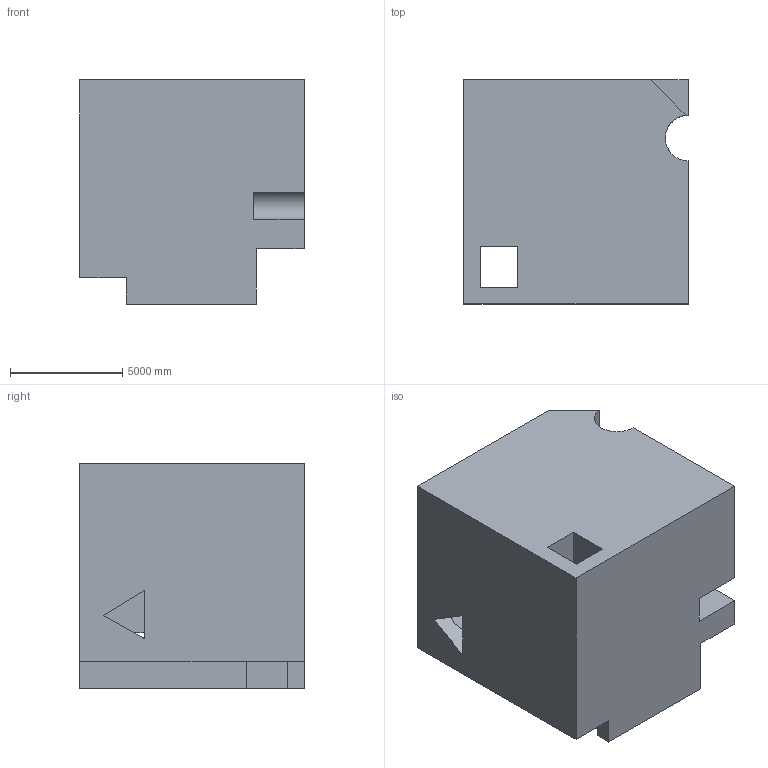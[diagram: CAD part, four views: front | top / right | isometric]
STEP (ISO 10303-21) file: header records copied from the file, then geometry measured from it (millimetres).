
FILE_DESCRIPTION (( 'STEP AP203' ), '1' );
FILE_NAME ('198.STEP', '2022-08-31T12:24:46', ( 'user' ), ( '' ), 'SwSTEP 2.0', 'SolidWorks 2021', '' );
FILE_SCHEMA (( 'CONFIG_CONTROL_DESIGN' ));
Length unit declared in the file: centimetre
Products named in the file (1): 198
Bounding box: 10000 x 10000 x 10000 mm (x, y, z)
Volume: 813147131032.5 mm3; surface area: 749543847.7 mm2
Topology: 1 solids, 1 shells, 57 faces, 171 edges, 114 vertices
Faces by surface type: plane 55, cylinder 2
Entity records: 1979 total; most frequent: CARTESIAN_POINT 343, ORIENTED_EDGE 342, DIRECTION 292, EDGE_CURVE 171, VECTOR 166, LINE 166, VERTEX_POINT 114, AXIS2_PLACEMENT_3D 63
